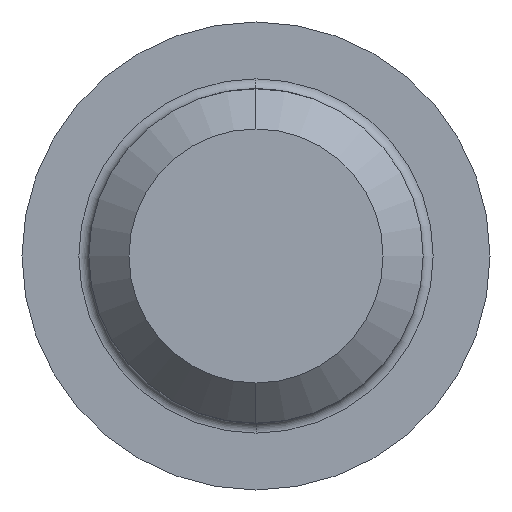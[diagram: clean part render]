
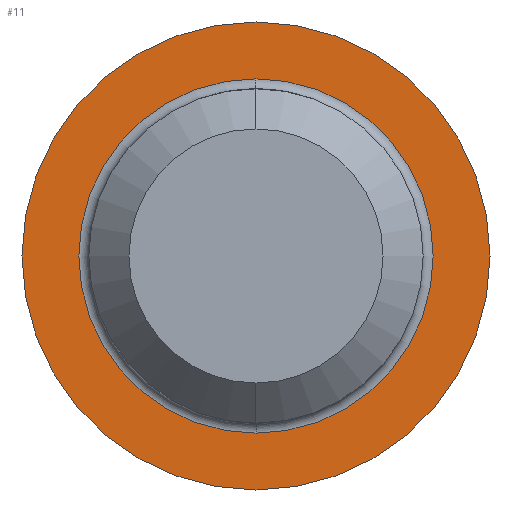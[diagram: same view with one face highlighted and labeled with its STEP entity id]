
A CAD part, left-side view. The second image highlights one B-rep face of the part: STEP entity #11.
In plain terms, the highlighted planar face has unit normal (-1, 0, 0).
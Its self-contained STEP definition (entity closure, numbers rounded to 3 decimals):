
#11 = ADVANCED_FACE ( 'NONE', ( #148, #272 ), #151, .F. ) ;
#17 = EDGE_CURVE ( 'NONE', #110, #33, #347, .T. ) ;
#33 = VERTEX_POINT ( 'NONE', #232 ) ;
#38 = ORIENTED_EDGE ( 'NONE', *, *, #17, .T. ) ;
#54 = EDGE_CURVE ( 'NONE', #119, #135, #214, .T. ) ;
#59 = ORIENTED_EDGE ( 'NONE', *, *, #118, .T. ) ;
#105 = EDGE_CURVE ( 'NONE', #33, #110, #389, .T. ) ;
#110 = VERTEX_POINT ( 'NONE', #435 ) ;
#112 = EDGE_LOOP ( 'NONE', ( #292, #59 ) ) ;
#118 = EDGE_CURVE ( 'NONE', #135, #119, #417, .T. ) ;
#119 = VERTEX_POINT ( 'NONE', #434 ) ;
#135 = VERTEX_POINT ( 'NONE', #409 ) ;
#148 = FACE_BOUND ( 'NONE', #112, .T. ) ;
#149 = AXIS2_PLACEMENT_3D ( 'NONE', #345, #176, #175 ) ;
#151 = PLANE ( 'NONE',  #302 ) ;
#175 = DIRECTION ( 'NONE',  ( 0., 0., 1. ) ) ;
#176 = DIRECTION ( 'NONE',  ( -1., 0., 0. ) ) ;
#186 = DIRECTION ( 'NONE',  ( 0., 0., -1. ) ) ;
#187 = DIRECTION ( 'NONE',  ( 1., 0., 0. ) ) ;
#188 = CARTESIAN_POINT ( 'NONE',  ( 0., 0., 0. ) ) ;
#190 = AXIS2_PLACEMENT_3D ( 'NONE', #188, #187, #186 ) ;
#197 = ORIENTED_EDGE ( 'NONE', *, *, #105, .T. ) ;
#214 = CIRCLE ( 'NONE', #190, 5.3 ) ;
#232 = CARTESIAN_POINT ( 'NONE',  ( 0., 0., 7. ) ) ;
#272 = FACE_OUTER_BOUND ( 'NONE', #273, .T. ) ;
#273 = EDGE_LOOP ( 'NONE', ( #197, #38 ) ) ;
#277 = DIRECTION ( 'NONE',  ( 0., 0., -1. ) ) ;
#278 = DIRECTION ( 'NONE',  ( 1., 0., 0. ) ) ;
#292 = ORIENTED_EDGE ( 'NONE', *, *, #54, .T. ) ;
#302 = AXIS2_PLACEMENT_3D ( 'NONE', #330, #278, #277 ) ;
#330 = CARTESIAN_POINT ( 'NONE',  ( 0., 7., 0. ) ) ;
#345 = CARTESIAN_POINT ( 'NONE',  ( 0., 0., 0. ) ) ;
#347 = CIRCLE ( 'NONE', #149, 7. ) ;
#387 = CARTESIAN_POINT ( 'NONE',  ( 0., 0., 0. ) ) ;
#389 = CIRCLE ( 'NONE', #433, 7. ) ;
#409 = CARTESIAN_POINT ( 'NONE',  ( 0., 0., 5.3 ) ) ;
#412 = DIRECTION ( 'NONE',  ( 0., 0., -1. ) ) ;
#413 = DIRECTION ( 'NONE',  ( 1., 0., 0. ) ) ;
#414 = CARTESIAN_POINT ( 'NONE',  ( 0., 0., 0. ) ) ;
#415 = AXIS2_PLACEMENT_3D ( 'NONE', #414, #413, #412 ) ;
#417 = CIRCLE ( 'NONE', #415, 5.3 ) ;
#433 = AXIS2_PLACEMENT_3D ( 'NONE', #387, #476, #475 ) ;
#434 = CARTESIAN_POINT ( 'NONE',  ( 0., 0., -5.3 ) ) ;
#435 = CARTESIAN_POINT ( 'NONE',  ( 0., 0., -7. ) ) ;
#475 = DIRECTION ( 'NONE',  ( 0., 0., 1. ) ) ;
#476 = DIRECTION ( 'NONE',  ( -1., 0., 0. ) ) ;
